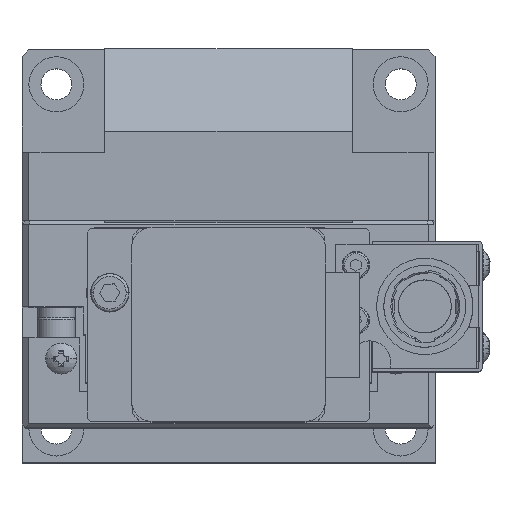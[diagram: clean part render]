
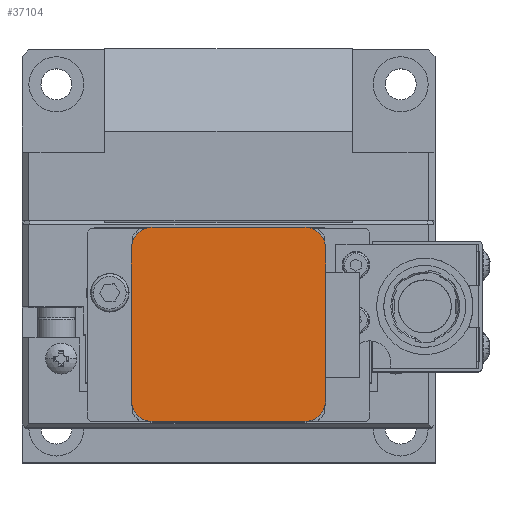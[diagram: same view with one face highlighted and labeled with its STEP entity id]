
A CAD part, top view. The second image highlights one B-rep face of the part: STEP entity #37104.
In plain terms, the highlighted planar face has unit normal (0, 0, 1) as drawn and (0, 0, -1) by its records, which use the part's own axes.
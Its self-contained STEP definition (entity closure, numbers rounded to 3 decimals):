
#1549 = VERTEX_POINT ( 'NONE', #63723 ) ;
#3017 = CARTESIAN_POINT ( 'NONE',  ( -11.1, -14.1, 0. ) ) ;
#3271 = AXIS2_PLACEMENT_3D ( 'NONE', #11982, #17418, #34006 ) ;
#4577 = AXIS2_PLACEMENT_3D ( 'NONE', #67866, #67507, #17378 ) ;
#6148 = DIRECTION ( 'NONE',  ( -1., 0., 0. ) ) ;
#10660 = VERTEX_POINT ( 'NONE', #32455 ) ;
#11189 = ORIENTED_EDGE ( 'NONE', *, *, #43598, .T. ) ;
#11644 = ORIENTED_EDGE ( 'NONE', *, *, #13017, .F. ) ;
#11711 = DIRECTION ( 'NONE',  ( 0., 0., -1. ) ) ;
#11982 = CARTESIAN_POINT ( 'NONE',  ( -11.1, -11.1, 0. ) ) ;
#13017 = EDGE_CURVE ( 'NONE', #61716, #10660, #44400, .T. ) ;
#13465 = EDGE_CURVE ( 'NONE', #67156, #1549, #34901, .T. ) ;
#13762 = VERTEX_POINT ( 'NONE', #68211 ) ;
#14902 = ORIENTED_EDGE ( 'NONE', *, *, #13465, .F. ) ;
#16428 = DIRECTION ( 'NONE',  ( -1., 0., 0. ) ) ;
#17378 = DIRECTION ( 'NONE',  ( 0., -1., 0. ) ) ;
#17418 = DIRECTION ( 'NONE',  ( 0., 0., -1. ) ) ;
#17718 = ORIENTED_EDGE ( 'NONE', *, *, #50300, .F. ) ;
#24049 = CARTESIAN_POINT ( 'NONE',  ( 11.1, -14.1, 0. ) ) ;
#25223 = CIRCLE ( 'NONE', #65481, 3. ) ;
#27806 = CARTESIAN_POINT ( 'NONE',  ( -14.1, -14.1, 0. ) ) ;
#29837 = ORIENTED_EDGE ( 'NONE', *, *, #66854, .T. ) ;
#30072 = VERTEX_POINT ( 'NONE', #3017 ) ;
#31648 = DIRECTION ( 'NONE',  ( -1., 0., 0. ) ) ;
#31851 = CARTESIAN_POINT ( 'NONE',  ( 11.1, 14.1, 0. ) ) ;
#32142 = CARTESIAN_POINT ( 'NONE',  ( -14.1, 11.1, 0. ) ) ;
#32443 = VERTEX_POINT ( 'NONE', #24049 ) ;
#32455 = CARTESIAN_POINT ( 'NONE',  ( 14.1, 11.1, 0. ) ) ;
#33735 = VERTEX_POINT ( 'NONE', #31851 ) ;
#33970 = PLANE ( 'NONE',  #4577 ) ;
#34006 = DIRECTION ( 'NONE',  ( -1., 0., 0. ) ) ;
#34901 = LINE ( 'NONE', #67007, #65045 ) ;
#35138 = CIRCLE ( 'NONE', #66217, 3. ) ;
#36364 = ORIENTED_EDGE ( 'NONE', *, *, #45388, .F. ) ;
#37104 = ADVANCED_FACE ( 'NONE', ( #67162 ), #33970, .T. ) ;
#40576 = EDGE_LOOP ( 'NONE', ( #17718, #29837, #14902, #11189, #36364, #59441, #11644, #49905 ) ) ;
#43598 = EDGE_CURVE ( 'NONE', #67156, #13762, #45904, .T. ) ;
#44400 = LINE ( 'NONE', #49485, #63896 ) ;
#45388 = EDGE_CURVE ( 'NONE', #33735, #13762, #57556, .T. ) ;
#45904 = CIRCLE ( 'NONE', #58598, 3. ) ;
#47940 = DIRECTION ( 'NONE',  ( 0., 0., -1. ) ) ;
#49485 = CARTESIAN_POINT ( 'NONE',  ( 14.1, -14.1, 0. ) ) ;
#49905 = ORIENTED_EDGE ( 'NONE', *, *, #62115, .T. ) ;
#50037 = CARTESIAN_POINT ( 'NONE',  ( 11.1, -11.1, 0. ) ) ;
#50300 = EDGE_CURVE ( 'NONE', #30072, #32443, #55983, .T. ) ;
#52157 = DIRECTION ( 'NONE',  ( -1., 0., 0. ) ) ;
#54593 = CARTESIAN_POINT ( 'NONE',  ( 11.1, 11.1, 0. ) ) ;
#55983 = LINE ( 'NONE', #27806, #69633 ) ;
#56541 = EDGE_CURVE ( 'NONE', #33735, #10660, #35138, .T. ) ;
#56940 = DIRECTION ( 'NONE',  ( 0., -1., 0. ) ) ;
#57474 = CIRCLE ( 'NONE', #3271, 3. ) ;
#57556 = LINE ( 'NONE', #68348, #64496 ) ;
#58408 = CARTESIAN_POINT ( 'NONE',  ( -11.1, 11.1, 0. ) ) ;
#58598 = AXIS2_PLACEMENT_3D ( 'NONE', #58408, #47940, #31648 ) ;
#59241 = DIRECTION ( 'NONE',  ( 0., 1., 0. ) ) ;
#59441 = ORIENTED_EDGE ( 'NONE', *, *, #56541, .T. ) ;
#61716 = VERTEX_POINT ( 'NONE', #66654 ) ;
#62115 = EDGE_CURVE ( 'NONE', #61716, #32443, #25223, .T. ) ;
#63723 = CARTESIAN_POINT ( 'NONE',  ( -14.1, -11.1, 0. ) ) ;
#63896 = VECTOR ( 'NONE', #59241, 1000. ) ;
#64496 = VECTOR ( 'NONE', #52157, 1000. ) ;
#65045 = VECTOR ( 'NONE', #56940, 1000. ) ;
#65481 = AXIS2_PLACEMENT_3D ( 'NONE', #50037, #11711, #16428 ) ;
#66217 = AXIS2_PLACEMENT_3D ( 'NONE', #54593, #66431, #6148 ) ;
#66431 = DIRECTION ( 'NONE',  ( 0., 0., -1. ) ) ;
#66654 = CARTESIAN_POINT ( 'NONE',  ( 14.1, -11.1, 0. ) ) ;
#66777 = DIRECTION ( 'NONE',  ( 1., 0., 0. ) ) ;
#66854 = EDGE_CURVE ( 'NONE', #30072, #1549, #57474, .T. ) ;
#67007 = CARTESIAN_POINT ( 'NONE',  ( -14.1, -14.1, 0. ) ) ;
#67156 = VERTEX_POINT ( 'NONE', #32142 ) ;
#67162 = FACE_OUTER_BOUND ( 'NONE', #40576, .T. ) ;
#67507 = DIRECTION ( 'NONE',  ( 0., 0., -1. ) ) ;
#67866 = CARTESIAN_POINT ( 'NONE',  ( 14.1, 14.1, 0. ) ) ;
#68211 = CARTESIAN_POINT ( 'NONE',  ( -11.1, 14.1, 0. ) ) ;
#68348 = CARTESIAN_POINT ( 'NONE',  ( -14.1, 14.1, 0. ) ) ;
#69633 = VECTOR ( 'NONE', #66777, 1000. ) ;
